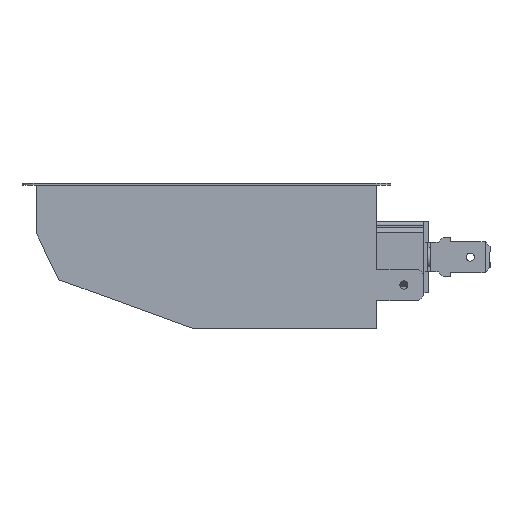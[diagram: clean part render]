
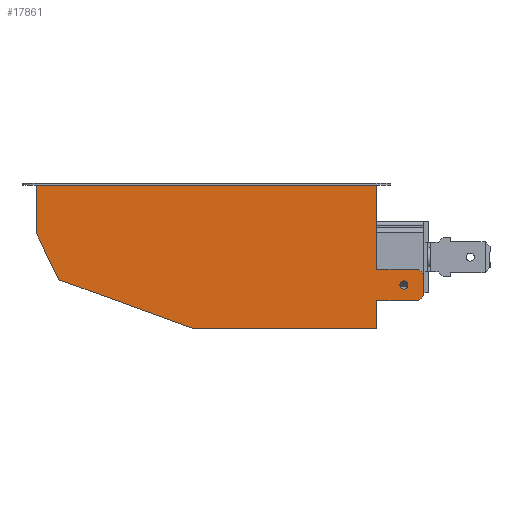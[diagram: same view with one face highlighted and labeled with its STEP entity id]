
A CAD part, front view. The second image highlights one B-rep face of the part: STEP entity #17861.
In plain terms, the highlighted planar face has unit normal (0, -1, 0).
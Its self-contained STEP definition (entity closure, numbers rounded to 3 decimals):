
#1471=CIRCLE('',#19004,0.825);
#1844=ORIENTED_EDGE('',*,*,#7312,.F.);
#1845=ORIENTED_EDGE('',*,*,#7313,.T.);
#1846=ORIENTED_EDGE('',*,*,#7314,.F.);
#1847=ORIENTED_EDGE('',*,*,#7315,.F.);
#1848=ORIENTED_EDGE('',*,*,#7316,.F.);
#1849=ORIENTED_EDGE('',*,*,#7309,.F.);
#1850=ORIENTED_EDGE('',*,*,#7317,.F.);
#1851=ORIENTED_EDGE('',*,*,#7318,.F.);
#1852=ORIENTED_EDGE('',*,*,#7319,.F.);
#1853=ORIENTED_EDGE('',*,*,#7320,.F.);
#1854=ORIENTED_EDGE('',*,*,#7321,.F.);
#1855=ORIENTED_EDGE('',*,*,#7322,.F.);
#1856=ORIENTED_EDGE('',*,*,#7323,.T.);
#7309=EDGE_CURVE('',#10043,#10044,#11811,.T.);
#7312=EDGE_CURVE('',#10046,#10047,#11813,.T.);
#7313=EDGE_CURVE('',#10046,#10048,#11814,.T.);
#7314=EDGE_CURVE('',#10049,#10048,#11815,.T.);
#7315=EDGE_CURVE('',#10050,#10049,#11816,.T.);
#7316=EDGE_CURVE('',#10044,#10050,#11817,.T.);
#7317=EDGE_CURVE('',#10051,#10043,#11818,.T.);
#7318=EDGE_CURVE('',#10052,#10051,#11819,.T.);
#7319=EDGE_CURVE('',#10053,#10052,#11820,.T.);
#7320=EDGE_CURVE('',#10054,#10053,#11821,.T.);
#7321=EDGE_CURVE('',#10055,#10054,#11822,.T.);
#7322=EDGE_CURVE('',#10047,#10055,#11823,.T.);
#7323=EDGE_CURVE('',#10056,#10056,#1471,.T.);
#10043=VERTEX_POINT('',#24038);
#10044=VERTEX_POINT('',#24040);
#10046=VERTEX_POINT('',#24046);
#10047=VERTEX_POINT('',#24047);
#10048=VERTEX_POINT('',#24049);
#10049=VERTEX_POINT('',#24051);
#10050=VERTEX_POINT('',#24053);
#10051=VERTEX_POINT('',#24056);
#10052=VERTEX_POINT('',#24058);
#10053=VERTEX_POINT('',#24060);
#10054=VERTEX_POINT('',#24062);
#10055=VERTEX_POINT('',#24064);
#10056=VERTEX_POINT('',#24067);
#11811=LINE('',#24039,#13337);
#11813=LINE('',#24045,#13339);
#11814=LINE('',#24048,#13340);
#11815=LINE('',#24050,#13341);
#11816=LINE('',#24052,#13342);
#11817=LINE('',#24054,#13343);
#11818=LINE('',#24055,#13344);
#11819=LINE('',#24057,#13345);
#11820=LINE('',#24059,#13346);
#11821=LINE('',#24061,#13347);
#11822=LINE('',#24063,#13348);
#11823=LINE('',#24065,#13349);
#13337=VECTOR('',#20100,1000.);
#13339=VECTOR('',#20106,1000.);
#13340=VECTOR('',#20107,1000.);
#13341=VECTOR('',#20108,1000.);
#13342=VECTOR('',#20109,1000.);
#13343=VECTOR('',#20110,1000.);
#13344=VECTOR('',#20111,1000.);
#13345=VECTOR('',#20112,1000.);
#13346=VECTOR('',#20113,1000.);
#13347=VECTOR('',#20114,1000.);
#13348=VECTOR('',#20115,1000.);
#13349=VECTOR('',#20116,1000.);
#14864=EDGE_LOOP('',(#1844,#1845,#1846,#1847,#1848,#1849,#1850,#1851,#1852,
#1853,#1854,#1855));
#14865=EDGE_LOOP('',(#1856));
#16090=FACE_BOUND('',#14864,.T.);
#16091=FACE_BOUND('',#14865,.T.);
#17306=PLANE('',#19003);
#17861=ADVANCED_FACE('',(#16090,#16091),#17306,.T.);
#19003=AXIS2_PLACEMENT_3D('',#24044,#20104,#20105);
#19004=AXIS2_PLACEMENT_3D('',#24066,#20117,#20118);
#20100=DIRECTION('',(-1.,0.,0.));
#20104=DIRECTION('',(0.,-1.,0.));
#20105=DIRECTION('',(0.,0.,-1.));
#20106=DIRECTION('',(0.,0.,-1.));
#20107=DIRECTION('',(-1.,0.,0.));
#20108=DIRECTION('',(0.,0.,1.));
#20109=DIRECTION('',(-0.438,0.,0.899));
#20110=DIRECTION('',(-0.94,0.,0.342));
#20111=DIRECTION('',(0.,0.,-1.));
#20112=DIRECTION('',(-1.,0.,0.));
#20113=DIRECTION('',(-0.707,0.,-0.707));
#20114=DIRECTION('',(0.,0.,-1.));
#20115=DIRECTION('',(0.707,0.,-0.707));
#20116=DIRECTION('',(1.,0.,0.));
#20117=DIRECTION('',(0.,1.,0.));
#20118=DIRECTION('',(1.,0.,0.));
#24038=CARTESIAN_POINT('',(34.5,-27.,0.));
#24039=CARTESIAN_POINT('',(-2.6,-27.,0.));
#24040=CARTESIAN_POINT('',(-2.6,-27.,0.));
#24044=CARTESIAN_POINT('',(-39.231,-27.,29.1));
#24045=CARTESIAN_POINT('',(34.5,-27.,0.));
#24046=CARTESIAN_POINT('',(34.5,-27.,29.1));
#24047=CARTESIAN_POINT('',(34.5,-27.,12.));
#24048=CARTESIAN_POINT('',(37.35,-27.,29.1));
#24049=CARTESIAN_POINT('',(-34.5,-27.,29.1));
#24050=CARTESIAN_POINT('',(-34.5,-27.,19.4));
#24051=CARTESIAN_POINT('',(-34.5,-27.,19.4));
#24052=CARTESIAN_POINT('',(-34.5,-27.,19.4));
#24053=CARTESIAN_POINT('',(-29.881,-27.,9.929));
#24054=CARTESIAN_POINT('',(-29.881,-27.,9.929));
#24055=CARTESIAN_POINT('',(34.5,-27.,0.));
#24056=CARTESIAN_POINT('',(34.5,-27.,5.7));
#24057=CARTESIAN_POINT('',(43.,-27.,5.7));
#24058=CARTESIAN_POINT('',(43.,-27.,5.7));
#24059=CARTESIAN_POINT('',(44.,-27.,6.7));
#24060=CARTESIAN_POINT('',(44.,-27.,6.7));
#24061=CARTESIAN_POINT('',(44.,-27.,11.));
#24062=CARTESIAN_POINT('',(44.,-27.,11.));
#24063=CARTESIAN_POINT('',(43.,-27.,12.));
#24064=CARTESIAN_POINT('',(43.,-27.,12.));
#24065=CARTESIAN_POINT('',(34.5,-27.,12.));
#24066=CARTESIAN_POINT('',(40.,-27.,8.85));
#24067=CARTESIAN_POINT('',(40.825,-27.,8.85));
